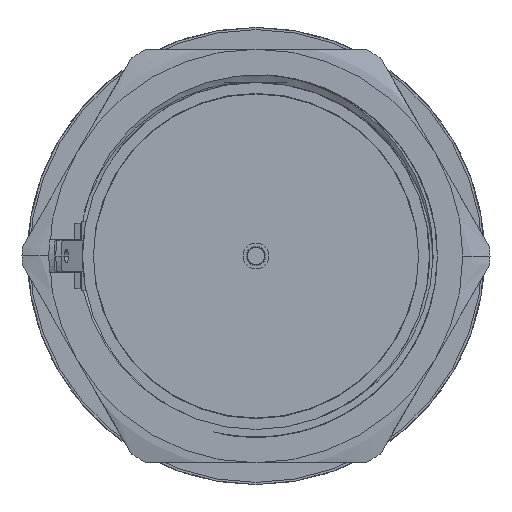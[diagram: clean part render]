
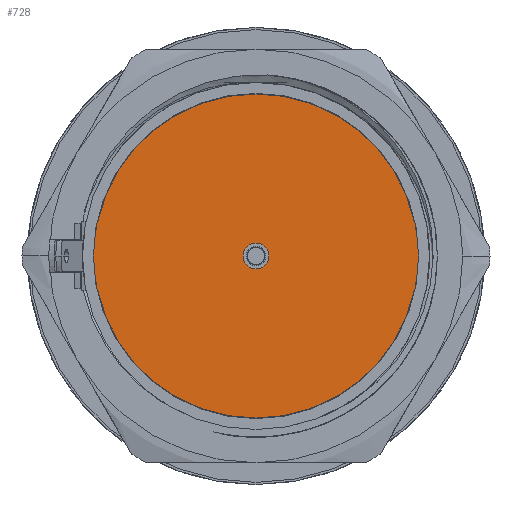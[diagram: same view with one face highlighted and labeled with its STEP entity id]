
A CAD part, front view. The second image highlights one B-rep face of the part: STEP entity #728.
In plain terms, the highlighted planar face has unit normal (0, -1, 0).
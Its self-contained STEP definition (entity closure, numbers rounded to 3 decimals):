
#728=ADVANCED_FACE('',(#2114,#2115),#2116,.F.);
#2114=FACE_OUTER_BOUND('',#8249,.T.);
#2115=FACE_BOUND('',#8250,.T.);
#2116=PLANE('',#8251);
#8249=EDGE_LOOP('',(#16649,#16650,#16651,#16652,#16653,#16654,#16655,#16656,#16657,#16658));
#8250=EDGE_LOOP('',(#16659,#16660));
#8251=AXIS2_PLACEMENT_3D('',#16661,#16662,#16663);
#16649=ORIENTED_EDGE('',*,*,#21521,.F.);
#16650=ORIENTED_EDGE('',*,*,#21518,.F.);
#16651=ORIENTED_EDGE('',*,*,#21522,.F.);
#16652=ORIENTED_EDGE('',*,*,#21523,.F.);
#16653=ORIENTED_EDGE('',*,*,#21524,.F.);
#16654=ORIENTED_EDGE('',*,*,#21525,.F.);
#16655=ORIENTED_EDGE('',*,*,#21526,.F.);
#16656=ORIENTED_EDGE('',*,*,#21516,.F.);
#16657=ORIENTED_EDGE('',*,*,#21527,.F.);
#16658=ORIENTED_EDGE('',*,*,#21528,.F.);
#16659=ORIENTED_EDGE('',*,*,#21529,.F.);
#16660=ORIENTED_EDGE('',*,*,#21530,.F.);
#16661=CARTESIAN_POINT('',(0.0,-42.63,0.0));
#16662=DIRECTION('',(0.0,1.0,0.0));
#16663=DIRECTION('',(0.0,0.0,1.0));
#21516=EDGE_CURVE('',#24580,#24576,#24582,.T.);
#21518=EDGE_CURVE('',#24583,#24586,#24587,.T.);
#21521=EDGE_CURVE('',#24586,#24591,#24592,.T.);
#21522=EDGE_CURVE('',#24593,#24583,#24594,.T.);
#21523=EDGE_CURVE('',#24595,#24593,#24596,.T.);
#21524=EDGE_CURVE('',#24597,#24595,#24598,.T.);
#21525=EDGE_CURVE('',#24599,#24597,#24600,.T.);
#21526=EDGE_CURVE('',#24576,#24599,#24601,.T.);
#21527=EDGE_CURVE('',#24602,#24580,#24603,.T.);
#21528=EDGE_CURVE('',#24591,#24602,#24604,.T.);
#21529=EDGE_CURVE('',#24605,#24606,#24607,.T.);
#21530=EDGE_CURVE('',#24606,#24605,#24608,.T.);
#24576=VERTEX_POINT('',#33367);
#24580=VERTEX_POINT('',#33372);
#24582=CIRCLE('',#33375,14.885);
#24583=VERTEX_POINT('',#33376);
#24586=VERTEX_POINT('',#33380);
#24587=CIRCLE('',#33381,14.885);
#24591=VERTEX_POINT('',#33386);
#24592=LINE('',#33387,#33388);
#24593=VERTEX_POINT('',#33389);
#24594=CIRCLE('',#33390,14.885);
#24595=VERTEX_POINT('',#33391);
#24596=LINE('',#33392,#33393);
#24597=VERTEX_POINT('',#33394);
#24598=CIRCLE('',#33395,15.875);
#24599=VERTEX_POINT('',#33396);
#24600=LINE('',#33397,#33398);
#24601=CIRCLE('',#33399,14.885);
#24602=VERTEX_POINT('',#33400);
#24603=LINE('',#33401,#33402);
#24604=CIRCLE('',#33403,15.875);
#24605=VERTEX_POINT('',#33404);
#24606=VERTEX_POINT('',#33405);
#24607=CIRCLE('',#33406,1.18);
#24608=CIRCLE('',#33407,1.18);
#33367=CARTESIAN_POINT('',(0.,-42.63,-14.885));
#33372=CARTESIAN_POINT('',(14.542,-42.63,-3.175));
#33375=AXIS2_PLACEMENT_3D('',#42236,#42237,#42238);
#33376=CARTESIAN_POINT('',(0.,-42.63,14.885));
#33380=CARTESIAN_POINT('',(14.542,-42.63,3.175));
#33381=AXIS2_PLACEMENT_3D('',#42240,#42241,#42242);
#33386=CARTESIAN_POINT('',(15.554,-42.63,3.175));
#33387=CARTESIAN_POINT('',(14.542,-42.63,3.175));
#33388=VECTOR('',#42247,1.012);
#33389=CARTESIAN_POINT('',(-14.542,-42.63,3.175));
#33390=AXIS2_PLACEMENT_3D('',#42248,#42249,#42250);
#33391=CARTESIAN_POINT('',(-15.554,-42.63,3.175));
#33392=CARTESIAN_POINT('',(-15.554,-42.63,3.175));
#33393=VECTOR('',#42251,1.012);
#33394=CARTESIAN_POINT('',(-15.554,-42.63,-3.175));
#33395=AXIS2_PLACEMENT_3D('',#42252,#42253,#42254);
#33396=CARTESIAN_POINT('',(-14.542,-42.63,-3.175));
#33397=CARTESIAN_POINT('',(-14.542,-42.63,-3.175));
#33398=VECTOR('',#42255,1.012);
#33399=AXIS2_PLACEMENT_3D('',#42256,#42257,#42258);
#33400=CARTESIAN_POINT('',(15.554,-42.63,-3.175));
#33401=CARTESIAN_POINT('',(15.554,-42.63,-3.175));
#33402=VECTOR('',#42259,1.012);
#33403=AXIS2_PLACEMENT_3D('',#42260,#42261,#42262);
#33404=CARTESIAN_POINT('',(0.0,-42.63,-1.18));
#33405=CARTESIAN_POINT('',(0.0,-42.63,1.18));
#33406=AXIS2_PLACEMENT_3D('',#42263,#42264,#42265);
#33407=AXIS2_PLACEMENT_3D('',#42266,#42267,#42268);
#42236=CARTESIAN_POINT('',(0.0,-42.63,0.0));
#42237=DIRECTION('',(0.0,1.0,0.0));
#42238=DIRECTION('',(0.977,0.0,-0.213));
#42240=CARTESIAN_POINT('',(0.0,-42.63,0.0));
#42241=DIRECTION('',(0.0,1.0,0.0));
#42242=DIRECTION('',(-0.977,0.0,0.213));
#42247=DIRECTION('',(1.0,0.0,0.0));
#42248=CARTESIAN_POINT('',(0.0,-42.63,0.0));
#42249=DIRECTION('',(0.0,1.0,0.0));
#42250=DIRECTION('',(-0.977,0.0,0.213));
#42251=DIRECTION('',(1.0,0.0,0.0));
#42252=CARTESIAN_POINT('',(0.0,-42.63,0.0));
#42253=DIRECTION('',(0.0,1.0,0.0));
#42254=DIRECTION('',(-0.98,0.0,-0.2));
#42255=DIRECTION('',(-1.0,0.0,0.0));
#42256=CARTESIAN_POINT('',(0.0,-42.63,0.0));
#42257=DIRECTION('',(0.0,1.0,0.0));
#42258=DIRECTION('',(0.977,0.0,-0.213));
#42259=DIRECTION('',(-1.0,0.0,0.0));
#42260=CARTESIAN_POINT('',(0.0,-42.63,0.0));
#42261=DIRECTION('',(-0.0,1.0,0.0));
#42262=DIRECTION('',(0.98,0.0,0.2));
#42263=CARTESIAN_POINT('',(0.0,-42.63,0.0));
#42264=DIRECTION('',(0.0,-1.0,0.0));
#42265=DIRECTION('',(0.0,0.0,-1.0));
#42266=CARTESIAN_POINT('',(0.0,-42.63,0.0));
#42267=DIRECTION('',(0.0,-1.0,0.0));
#42268=DIRECTION('',(0.0,0.0,1.0));
